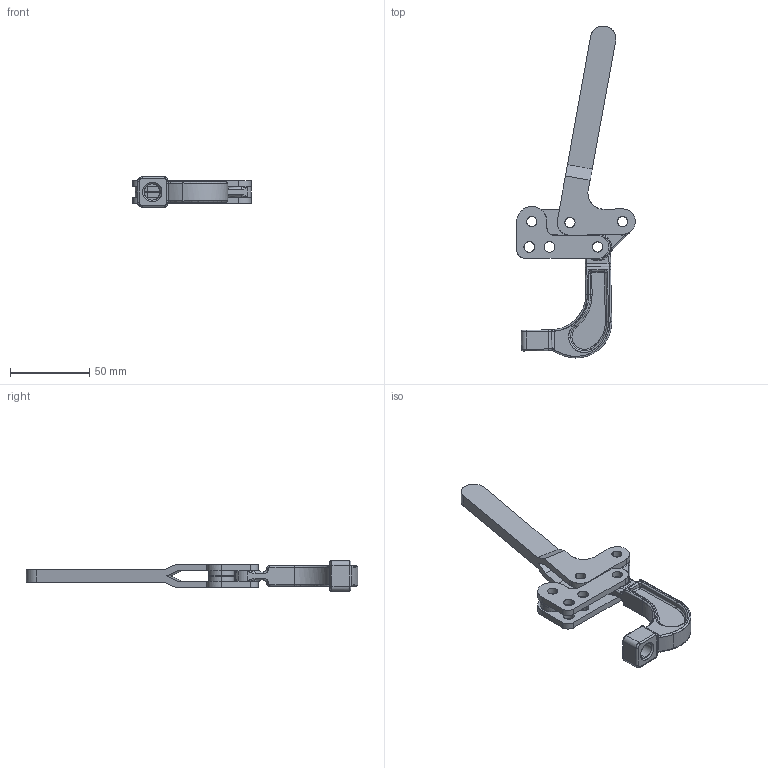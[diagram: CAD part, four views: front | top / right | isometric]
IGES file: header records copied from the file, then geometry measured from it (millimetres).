
Start section: Comment
Global section: file name: 80325.igs; native system:  By Spatial Corp.; preprocessor: XPlus PS/IGES 3.0; author: Author; organization: Title; date: 20050217.133729; units: inch
Bounding box: 74.61 x 208.91 x 19 mm (x, y, z)
Surface area: 27988.7 mm2 (no closed solid volume)
Topology: 0 solids, 0 shells, 277 faces, 1360 edges, 1346 vertices
Faces by surface type: revolution 190, extrusion 63, bspline 24
